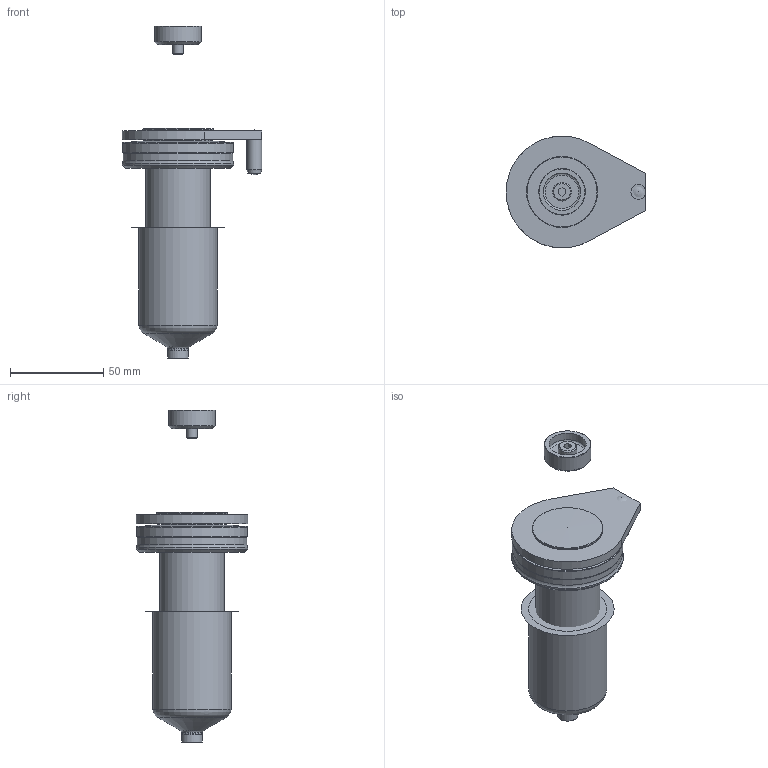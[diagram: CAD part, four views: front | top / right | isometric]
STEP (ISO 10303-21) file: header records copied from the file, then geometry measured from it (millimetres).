
FILE_DESCRIPTION(/* description */ (''),/* implementation_level */ '2;1');
FILE_NAME(/* name */ 'U1000 TS.stp',/* time_stamp */ '2021-12-22T13:27:20+08:00',/* author */ (''),/* organization */ (''),/* preprocessor_version */ 'ST-DEVELOPER v16',/* originating_system */ 'SIEMENS PLM Software NX 11.0',/* authorisation */ '');
FILE_SCHEMA (('AUTOMOTIVE_DESIGN { 1 0 10303 214 3 1 1 1 }'));
Length unit declared in the file: millimetre
Products named in the file (14): 3D_EXPORT_3D_ASSY_11312683_0_id6_x_t; 3D_EXPORT_3D_ASSY_11312683_0_id11_x_t; 3D_EXPORT_3D_ASSY_11312683_0_id16_x_t; 3D_EXPORT_3D_ASSY_11312683_0_id21_x_t; 3D_EXPORT_3D_ASSY_11312683_0_id26_x_t; 3D_EXPORT_3D_ASSY_11312683_0_id31_x_t; 3D_EXPORT_3D_ASSY_11312683_0_id36_x_t; 3D_EXPORT_3D_ASSY_11312683_0_id41_x_t; 3D_EXPORT_3D_ASSY_11312683_0_id46_x_t; 3D_EXPORT_3D_ASSY_11312683_0_id51_x_t; 3D_EXPORT_3D_ASSY_11312683_0_id56_x_t; 3D_EXPORT_3D_ASSY_11312683_0_id61_x_t; 3D_EXPORT_3D_ASSY_11312683_0_id66_x_t; 3D_EXPORT_3D_ASSY_11312683_0_x_t
Assembly tree (14 placements, depth 2):
  3D_EXPORT_3D_ASSY_11312683_0_x_t
    3D_EXPORT_3D_ASSY_11312683_0_id66_x_t  x2
    3D_EXPORT_3D_ASSY_11312683_0_id61_x_t
    3D_EXPORT_3D_ASSY_11312683_0_id56_x_t
    3D_EXPORT_3D_ASSY_11312683_0_id51_x_t
    3D_EXPORT_3D_ASSY_11312683_0_id46_x_t
    3D_EXPORT_3D_ASSY_11312683_0_id41_x_t
    3D_EXPORT_3D_ASSY_11312683_0_id36_x_t
    3D_EXPORT_3D_ASSY_11312683_0_id31_x_t
    3D_EXPORT_3D_ASSY_11312683_0_id26_x_t
    3D_EXPORT_3D_ASSY_11312683_0_id21_x_t
    3D_EXPORT_3D_ASSY_11312683_0_id16_x_t
    3D_EXPORT_3D_ASSY_11312683_0_id11_x_t
    3D_EXPORT_3D_ASSY_11312683_0_id6_x_t
Bounding box: 75 x 59.99 x 178.2 mm (x, y, z)
Volume: 283486.5 mm3; surface area: 65501.7 mm2
Topology: 14 solids, 14 shells, 278 faces, 724 edges, 469 vertices
Faces by surface type: cylinder 139, plane 72, torus 42, cone 23, sphere 2
Full cylindrical faces by diameter (mm): 5.795 x1, 6 x1, 8 x1, 10 x1, 10.5 x1, 10.995 x1, 11 x1, 17.7 x1, 18.1 x1, 19.925 x1, 20 x1, 25 x1, 25.4 x1, 25.41 x2, 25.43 x1, 27.27 x1, 31.75 x1, 32.55 x1, 34.44 x1, 38.1 x1, 42 x1, 50 x1, 58.795 x1, 59.5 x1, 59.99 x1
Entity records: 10868 total; most frequent: CARTESIAN_POINT 2800, ORIENTED_EDGE 1196, DIRECTION 1086, EDGE_CURVE 598, AXIS2_PLACEMENT_3D 446, VERTEX_POINT 428, EDGE_LOOP 386, PRESENTATION_STYLE_ASSIGNMENT 275
